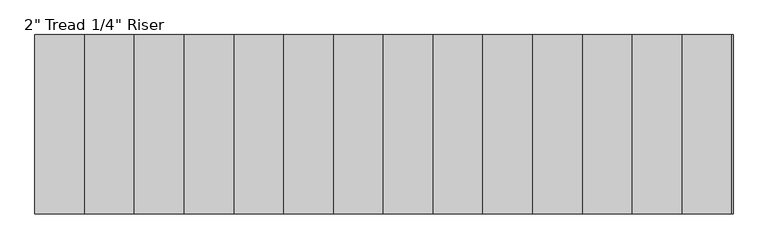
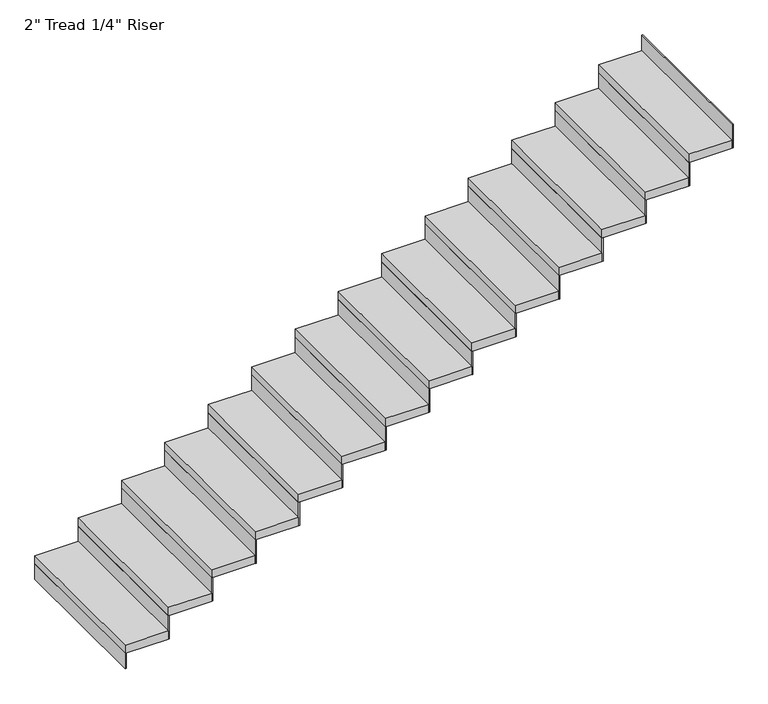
"""IFC4 building model written with IfcOpenShell, lengths in millimetres: stair flight geometry."""

from ifc_helpers import new_model, si_unit, frame, origin, origin_with_axes, place, context, project, spatial, polyline, outline, extrude, source, transform, mapped, element, save


def stair_flight_b267efb0(model_context):
    return source(origin(), model_context, "Body", "SweptSolid", [
        extrude(outline(polyline([(134755.6382982, -2429.8986114), (134749.2882982, -2429.8986114), (134749.2882982, -1515.4986114), (134755.6382982, -1515.4986114), (134755.6382982, -2429.8986114)])), origin_with_axes(), (0.0, 0.0, 1.0), 94.3428571),
        extrude(outline(polyline([(135003.2882982, -1515.4986114), (135003.2882982, -2429.8986114), (134749.2882982, -2429.8986114), (134749.2882982, -1515.4986114), (135003.2882982, -1515.4986114)])), frame((0.0, 0.0, 94.3428571), z_axis=(0.0, 0.0, 1.0), x_axis=(1.0, 0.0, 0.0)), (0.0, 0.0, 1.0), 50.8),
        extrude(outline(polyline([(135009.6382982, -2429.8986114), (135003.2882982, -2429.8986114), (135003.2882982, -1515.4986114), (135009.6382982, -1515.4986114), (135009.6382982, -2429.8986114)])), frame((0.0, 0.0, 94.3428571), z_axis=(0.0, 0.0, 1.0), x_axis=(1.0, 0.0, 0.0)), (0.0, 0.0, 1.0), 145.1428571),
        extrude(outline(polyline([(135257.2882982, -1515.4986114), (135257.2882982, -2429.8986114), (135003.2882982, -2429.8986114), (135003.2882982, -1515.4986114), (135257.2882982, -1515.4986114)])), frame((0.0, 0.0, 239.4857143), z_axis=(0.0, 0.0, 1.0), x_axis=(1.0, 0.0, 0.0)), (0.0, 0.0, 1.0), 50.8),
        extrude(outline(polyline([(135263.6382982, -2429.8986114), (135257.2882982, -2429.8986114), (135257.2882982, -1515.4986114), (135263.6382982, -1515.4986114), (135263.6382982, -2429.8986114)])), frame((0.0, 0.0, 239.4857143), z_axis=(0.0, 0.0, 1.0), x_axis=(1.0, 0.0, 0.0)), (0.0, 0.0, 1.0), 145.1428571),
        extrude(outline(polyline([(135511.2882982, -1515.4986114), (135511.2882982, -2429.8986114), (135257.2882982, -2429.8986114), (135257.2882982, -1515.4986114), (135511.2882982, -1515.4986114)])), frame((0.0, 0.0, 384.6285714), z_axis=(0.0, 0.0, 1.0), x_axis=(1.0, 0.0, 0.0)), (0.0, 0.0, 1.0), 50.8),
        extrude(outline(polyline([(135517.6382982, -2429.8986114), (135511.2882982, -2429.8986114), (135511.2882982, -1515.4986114), (135517.6382982, -1515.4986114), (135517.6382982, -2429.8986114)])), frame((0.0, 0.0, 384.6285714), z_axis=(0.0, 0.0, 1.0), x_axis=(1.0, 0.0, 0.0)), (0.0, 0.0, 1.0), 145.1428571),
        extrude(outline(polyline([(135765.2882982, -1515.4986114), (135765.2882982, -2429.8986114), (135511.2882982, -2429.8986114), (135511.2882982, -1515.4986114), (135765.2882982, -1515.4986114)])), frame((0.0, 0.0, 529.7714286), z_axis=(0.0, 0.0, 1.0), x_axis=(1.0, 0.0, 0.0)), (0.0, 0.0, 1.0), 50.8),
        extrude(outline(polyline([(135771.6382982, -2429.8986114), (135765.2882982, -2429.8986114), (135765.2882982, -1515.4986114), (135771.6382982, -1515.4986114), (135771.6382982, -2429.8986114)])), frame((0.0, 0.0, 529.7714286), z_axis=(0.0, 0.0, 1.0), x_axis=(1.0, 0.0, 0.0)), (0.0, 0.0, 1.0), 145.1428571),
        extrude(outline(polyline([(136019.2882982, -1515.4986114), (136019.2882982, -2429.8986114), (135765.2882982, -2429.8986114), (135765.2882982, -1515.4986114), (136019.2882982, -1515.4986114)])), frame((0.0, 0.0, 674.9142857), z_axis=(0.0, 0.0, 1.0), x_axis=(1.0, 0.0, 0.0)), (0.0, 0.0, 1.0), 50.8),
        extrude(outline(polyline([(136025.6382982, -2429.8986114), (136019.2882982, -2429.8986114), (136019.2882982, -1515.4986114), (136025.6382982, -1515.4986114), (136025.6382982, -2429.8986114)])), frame((0.0, 0.0, 674.9142857), z_axis=(0.0, 0.0, 1.0), x_axis=(1.0, 0.0, 0.0)), (0.0, 0.0, 1.0), 145.1428571),
        extrude(outline(polyline([(136273.2882982, -1515.4986114), (136273.2882982, -2429.8986114), (136019.2882982, -2429.8986114), (136019.2882982, -1515.4986114), (136273.2882982, -1515.4986114)])), frame((0.0, 0.0, 820.0571429), z_axis=(0.0, 0.0, 1.0), x_axis=(1.0, 0.0, 0.0)), (0.0, 0.0, 1.0), 50.8),
        extrude(outline(polyline([(136279.6382982, -2429.8986114), (136273.2882982, -2429.8986114), (136273.2882982, -1515.4986114), (136279.6382982, -1515.4986114), (136279.6382982, -2429.8986114)])), frame((0.0, 0.0, 820.0571429), z_axis=(0.0, 0.0, 1.0), x_axis=(1.0, 0.0, 0.0)), (0.0, 0.0, 1.0), 145.1428571),
        extrude(outline(polyline([(136527.2882982, -1515.4986114), (136527.2882982, -2429.8986114), (136273.2882982, -2429.8986114), (136273.2882982, -1515.4986114), (136527.2882982, -1515.4986114)])), frame((0.0, 0.0, 965.2), z_axis=(0.0, 0.0, 1.0), x_axis=(1.0, 0.0, 0.0)), (0.0, 0.0, 1.0), 50.8),
        extrude(outline(polyline([(136533.6382982, -2429.8986114), (136527.2882982, -2429.8986114), (136527.2882982, -1515.4986114), (136533.6382982, -1515.4986114), (136533.6382982, -2429.8986114)])), frame((0.0, 0.0, 965.2), z_axis=(0.0, 0.0, 1.0), x_axis=(1.0, 0.0, 0.0)), (0.0, 0.0, 1.0), 145.1428571),
        extrude(outline(polyline([(136781.2882982, -1515.4986114), (136781.2882982, -2429.8986114), (136527.2882982, -2429.8986114), (136527.2882982, -1515.4986114), (136781.2882982, -1515.4986114)])), frame((0.0, 0.0, 1110.3428571), z_axis=(0.0, 0.0, 1.0), x_axis=(1.0, 0.0, 0.0)), (0.0, 0.0, 1.0), 50.8),
        extrude(outline(polyline([(136787.6382982, -2429.8986114), (136781.2882982, -2429.8986114), (136781.2882982, -1515.4986114), (136787.6382982, -1515.4986114), (136787.6382982, -2429.8986114)])), frame((0.0, 0.0, 1110.3428571), z_axis=(0.0, 0.0, 1.0), x_axis=(1.0, 0.0, 0.0)), (0.0, 0.0, 1.0), 145.1428571),
        extrude(outline(polyline([(137035.2882982, -1515.4986114), (137035.2882982, -2429.8986114), (136781.2882982, -2429.8986114), (136781.2882982, -1515.4986114), (137035.2882982, -1515.4986114)])), frame((0.0, 0.0, 1255.4857143), z_axis=(0.0, 0.0, 1.0), x_axis=(1.0, 0.0, 0.0)), (0.0, 0.0, 1.0), 50.8),
        extrude(outline(polyline([(137041.6382982, -2429.8986114), (137035.2882982, -2429.8986114), (137035.2882982, -1515.4986114), (137041.6382982, -1515.4986114), (137041.6382982, -2429.8986114)])), frame((0.0, 0.0, 1255.4857143), z_axis=(0.0, 0.0, 1.0), x_axis=(1.0, 0.0, 0.0)), (0.0, 0.0, 1.0), 145.1428571),
        extrude(outline(polyline([(137289.2882982, -1515.4986114), (137289.2882982, -2429.8986114), (137035.2882982, -2429.8986114), (137035.2882982, -1515.4986114), (137289.2882982, -1515.4986114)])), frame((0.0, 0.0, 1400.6285714), z_axis=(0.0, 0.0, 1.0), x_axis=(1.0, 0.0, 0.0)), (0.0, 0.0, 1.0), 50.8),
        extrude(outline(polyline([(137295.6382982, -2429.8986114), (137289.2882982, -2429.8986114), (137289.2882982, -1515.4986114), (137295.6382982, -1515.4986114), (137295.6382982, -2429.8986114)])), frame((0.0, 0.0, 1400.6285714), z_axis=(0.0, 0.0, 1.0), x_axis=(1.0, 0.0, 0.0)), (0.0, 0.0, 1.0), 145.1428571),
        extrude(outline(polyline([(137543.2882982, -1515.4986114), (137543.2882982, -2429.8986114), (137289.2882982, -2429.8986114), (137289.2882982, -1515.4986114), (137543.2882982, -1515.4986114)])), frame((0.0, 0.0, 1545.7714286), z_axis=(0.0, 0.0, 1.0), x_axis=(1.0, 0.0, 0.0)), (0.0, 0.0, 1.0), 50.8),
        extrude(outline(polyline([(137549.6382982, -2429.8986114), (137543.2882982, -2429.8986114), (137543.2882982, -1515.4986114), (137549.6382982, -1515.4986114), (137549.6382982, -2429.8986114)])), frame((0.0, 0.0, 1545.7714286), z_axis=(0.0, 0.0, 1.0), x_axis=(1.0, 0.0, 0.0)), (0.0, 0.0, 1.0), 145.1428571),
        extrude(outline(polyline([(137797.2882982, -1515.4986114), (137797.2882982, -2429.8986114), (137543.2882982, -2429.8986114), (137543.2882982, -1515.4986114), (137797.2882982, -1515.4986114)])), frame((0.0, 0.0, 1690.9142857), z_axis=(0.0, 0.0, 1.0), x_axis=(1.0, 0.0, 0.0)), (0.0, 0.0, 1.0), 50.8),
        extrude(outline(polyline([(137803.6382982, -2429.8986114), (137797.2882982, -2429.8986114), (137797.2882982, -1515.4986114), (137803.6382982, -1515.4986114), (137803.6382982, -2429.8986114)])), frame((0.0, 0.0, 1690.9142857), z_axis=(0.0, 0.0, 1.0), x_axis=(1.0, 0.0, 0.0)), (0.0, 0.0, 1.0), 145.1428571),
        extrude(outline(polyline([(138051.2882982, -1515.4986114), (138051.2882982, -2429.8986114), (137797.2882982, -2429.8986114), (137797.2882982, -1515.4986114), (138051.2882982, -1515.4986114)])), frame((0.0, 0.0, 1836.0571429), z_axis=(0.0, 0.0, 1.0), x_axis=(1.0, 0.0, 0.0)), (0.0, 0.0, 1.0), 50.8),
        extrude(outline(polyline([(138057.6382982, -2429.8986114), (138051.2882982, -2429.8986114), (138051.2882982, -1515.4986114), (138057.6382982, -1515.4986114), (138057.6382982, -2429.8986114)])), frame((0.0, 0.0, 1836.0571429), z_axis=(0.0, 0.0, 1.0), x_axis=(1.0, 0.0, 0.0)), (0.0, 0.0, 1.0), 145.1428571),
        extrude(outline(polyline([(138311.6382982, -2429.8986114), (138305.2882982, -2429.8986114), (138305.2882982, -1515.4986114), (138311.6382982, -1515.4986114), (138311.6382982, -2429.8986114)])), frame((0.0, 0.0, 1981.2), z_axis=(0.0, 0.0, 1.0), x_axis=(1.0, 0.0, 0.0)), (0.0, 0.0, 1.0), 145.1428571),
        extrude(outline(polyline([(138305.2882982, -1515.4986114), (138305.2882982, -2429.8986114), (138051.2882982, -2429.8986114), (138051.2882982, -1515.4986114), (138305.2882982, -1515.4986114)])), frame((0.0, 0.0, 1981.2), z_axis=(0.0, 0.0, 1.0), x_axis=(1.0, 0.0, 0.0)), (0.0, 0.0, 1.0), 50.8),
    ])


if __name__ == "__main__":
    model = new_model("IFC4")
    model_context = context("Model", 3, world=origin())
    ifc_project = project(units=[si_unit("LENGTHUNIT", "METRE", prefix="MILLI")], contexts=[model_context])
    site = spatial("IfcSite", under=ifc_project)
    building = spatial("IfcBuilding", under=site)
    placement = place(None, origin())
    stair_flight_shape = stair_flight_b267efb0(model_context)
    element("IfcStairFlight", 1, ObjectType="2\" Tread 1/4\" Riser", at=placement, inside=building, context=model_context, shape_type="MappedRepresentation", body=[
        mapped(stair_flight_shape, transform((0.0, 0.0, 0.0), x_axis=(1.0, 0.0, 0.0), y_axis=(0.0, 1.0, 0.0), z_axis=(0.0, 0.0, 1.0))),
    ])
    save(model, "model.ifc")
